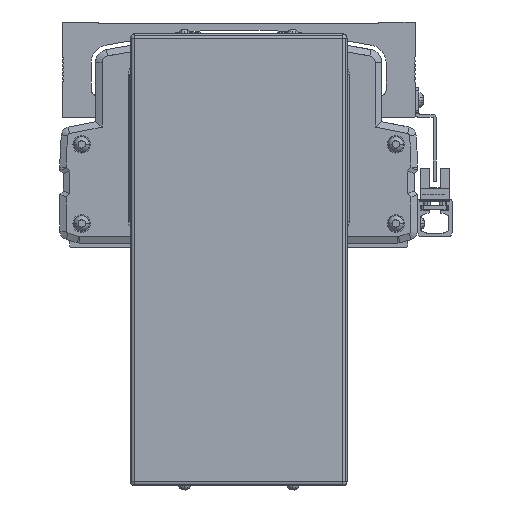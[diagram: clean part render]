
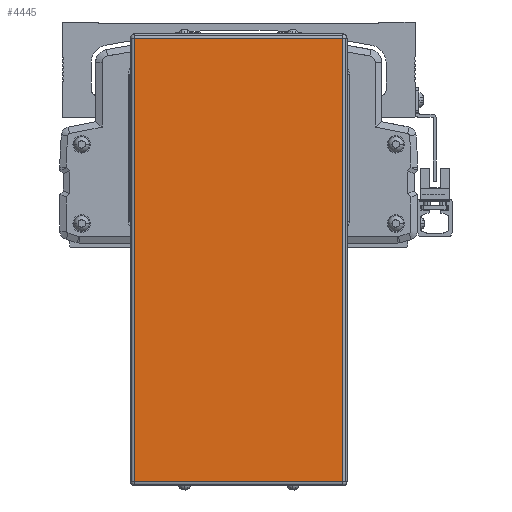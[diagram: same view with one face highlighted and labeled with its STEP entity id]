
A CAD part, front view. The second image highlights one B-rep face of the part: STEP entity #4445.
In plain terms, the highlighted planar face has unit normal (0, -1, 0).
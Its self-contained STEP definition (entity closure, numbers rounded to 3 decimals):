
#4445=ADVANCED_FACE('',(#10334),#10335,.T.);
#10334=FACE_OUTER_BOUND('',#19220,.T.);
#10335=PLANE('',#19221);
#19220=EDGE_LOOP('',(#32601,#32602,#32603,#32604));
#19221=AXIS2_PLACEMENT_3D('',#32605,#32606,#32607);
#32601=ORIENTED_EDGE('',*,*,#51445,.F.);
#32602=ORIENTED_EDGE('',*,*,#51446,.F.);
#32603=ORIENTED_EDGE('',*,*,#47516,.F.);
#32604=ORIENTED_EDGE('',*,*,#51447,.F.);
#32605=CARTESIAN_POINT('',(-600.,252.222,-57.8));
#32606=DIRECTION('',(0.,-1.0,0.));
#32607=DIRECTION('',(0.,0.,-1.0));
#47516=EDGE_CURVE('',#56486,#56488,#56489,.T.);
#51445=EDGE_CURVE('',#63020,#60228,#63021,.T.);
#51446=EDGE_CURVE('',#56488,#63020,#63022,.T.);
#51447=EDGE_CURVE('',#60228,#56486,#63023,.T.);
#56486=VERTEX_POINT('',#69459);
#56488=VERTEX_POINT('',#69461);
#56489=LINE('',#69462,#69463);
#60228=VERTEX_POINT('',#75165);
#63020=VERTEX_POINT('',#79087);
#63021=LINE('',#79088,#79089);
#63022=LINE('',#79090,#79091);
#63023=LINE('',#79092,#79093);
#69459=CARTESIAN_POINT('',(-552.,252.222,-160.1));
#69461=CARTESIAN_POINT('',(-648.,252.222,-160.1));
#69462=CARTESIAN_POINT('',(-600.,252.222,-160.1));
#69463=VECTOR('',#87548,10.0);
#75165=CARTESIAN_POINT('',(-552.,252.222,44.5));
#79087=CARTESIAN_POINT('',(-648.,252.222,44.5));
#79088=CARTESIAN_POINT('',(-600.,252.222,44.5));
#79089=VECTOR('',#92633,10.0);
#79090=CARTESIAN_POINT('',(-648.,252.222,-57.8));
#79091=VECTOR('',#92634,10.0);
#79092=CARTESIAN_POINT('',(-552.,252.222,-57.8));
#79093=VECTOR('',#92635,10.0);
#87548=DIRECTION('',(-1.0,0.,0.));
#92633=DIRECTION('',(1.0,0.,0.));
#92634=DIRECTION('',(0.,0.,1.0));
#92635=DIRECTION('',(0.,0.,-1.0));
